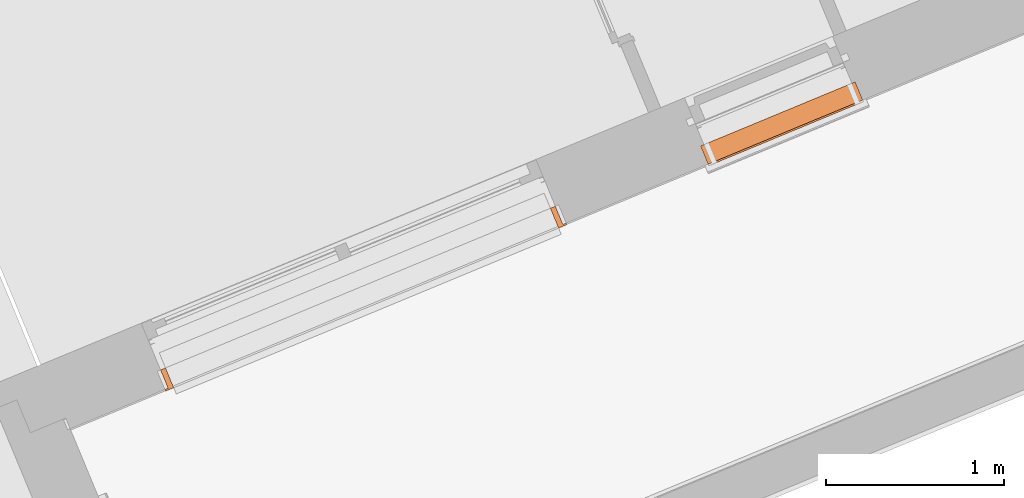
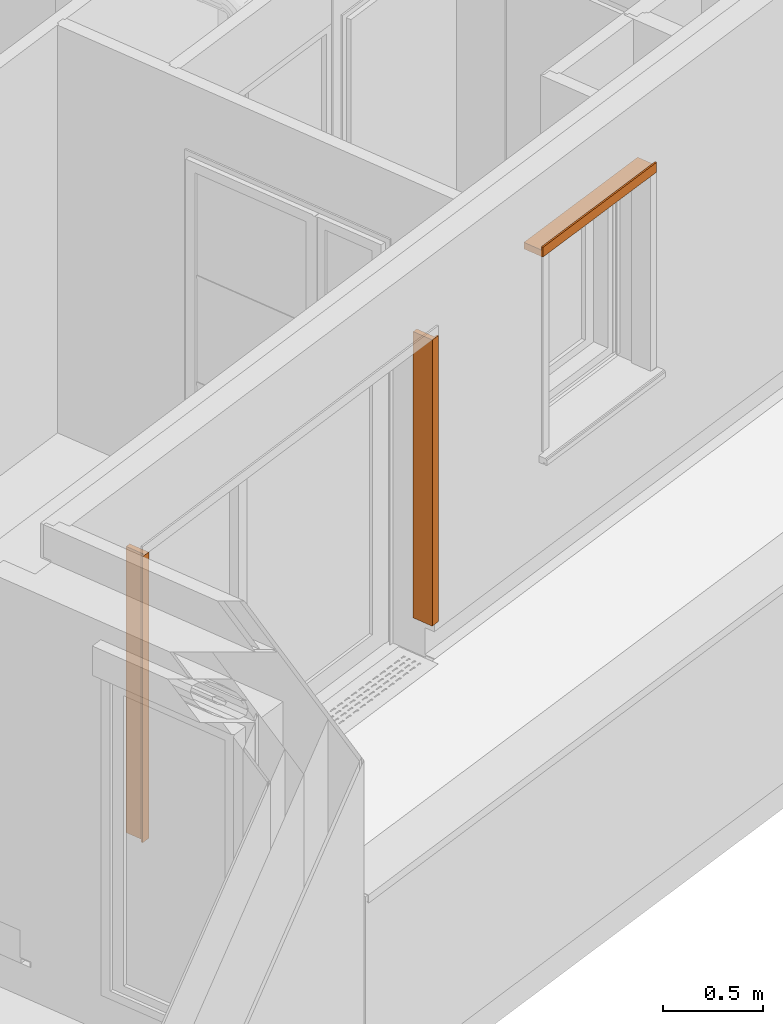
# One storey, part 85 of 91: 3 proxies.
"""IFC2X3 building model written with IfcOpenShell, lengths in metres."""

import ifcopenshell
import ifcopenshell.guid

model = None  # the IFC model being written
_history = None  # IfcOwnerHistory: only IFC2X3 demands one
_inside = {}  # id of a spatial element -> (the spatial element, [elements in it])
_under = {}  # id of a project, library or spatial element -> (it, [spatial elements below it])
_declared = {}  # id of a project -> (the project, [libraries it declares])
_typed = {}  # id of a type object -> (the type object, [elements of that type])
_made_of = {}  # id of a material, layer set ... -> (it, [elements and type objects made of it])


def new_model(schema):
    """Start an empty IFC model of exactly this schema.

    Asked for "IFC4X3", IfcOpenShell would pick the latest addendum, in which some entities
    have other attributes; the version numbers below select the first issue.
    IFC2X3 requires an IfcOwnerHistory on every rooted entity: one is made here for all.
    """
    global model, _history
    if schema == "IFC4X3":
        model = ifcopenshell.file(schema_version=(4, 3, 0, 0))
    else:
        model = ifcopenshell.file(schema=schema)
    _inside.clear()
    _under.clear()
    _declared.clear()
    _typed.clear()
    _made_of.clear()
    _history = None
    if model.schema == "IFC2X3":
        org = make("IfcOrganization", Name="unknown")
        user = make(
            "IfcPersonAndOrganization",
            ThePerson=make("IfcPerson", FamilyName="unknown"),
            TheOrganization=org,
        )
        app = make(
            "IfcApplication",
            ApplicationDeveloper=org,
            Version="unknown",
            ApplicationFullName="unknown",
            ApplicationIdentifier="unknown",
        )
        _history = make(
            "IfcOwnerHistory",
            OwningUser=user,
            OwningApplication=app,
            ChangeAction="ADDED",
            CreationDate=0,
        )
    return model


def make(cls, **values):
    """One entity of the class cls with the attributes given. An attribute that is None is left unset."""
    return model.create_entity(
        cls, **{name: value for name, value in values.items() if value is not None}
    )


def entity(cls, *values):
    """Any entity or typed value of the class cls, its attributes in the order of the schema. None: left unset."""
    e = model.create_entity(cls)
    for i, value in enumerate(values):
        if value is not None:
            e[i] = value
    return e


def rooted(cls, **values):
    """An entity with a GlobalId (a new one), such as an element, a storey or a relation."""
    return make(cls, GlobalId=ifcopenshell.guid.new(), OwnerHistory=_history, **values)


def si_unit(unit_type, name, prefix=None):
    """IfcSIUnit, for example si_unit("LENGTHUNIT", "METRE", prefix="MILLI")."""
    return make("IfcSIUnit", UnitType=unit_type, Prefix=prefix, Name=name)


def converted_unit(unit_type, name, factor, base, dimensions=None, offset=None):
    """IfcConversionBasedUnit, such as the inch: factor (a typed value) times the base unit."""
    return make(
        "IfcConversionBasedUnit"
        if offset is None
        else "IfcConversionBasedUnitWithOffset",
        ConversionOffset=offset,
        Dimensions=None
        if dimensions is None
        else entity("IfcDimensionalExponents", *dimensions),
        UnitType=unit_type,
        Name=name,
        ConversionFactor=make(
            "IfcMeasureWithUnit", ValueComponent=factor, UnitComponent=base
        ),
    )


def derived_unit(unit_type, elements):
    """IfcDerivedUnit: a product of units, each with its exponent."""
    return make(
        "IfcDerivedUnit",
        Elements=[
            make("IfcDerivedUnitElement", Unit=unit, Exponent=power)
            for unit, power in elements
        ],
        UnitType=unit_type,
    )


def money_unit(currency):
    """IfcMonetaryUnit."""
    return make("IfcMonetaryUnit", Currency=currency)


def assignment(units):
    """IfcUnitAssignment: the units of a project."""
    return None if units is None else make("IfcUnitAssignment", Units=units)


def point(xyz):
    """IfcCartesianPoint."""
    return None if xyz is None else make("IfcCartesianPoint", Coordinates=xyz)


def direction(xyz):
    """IfcDirection."""
    return None if xyz is None else make("IfcDirection", DirectionRatios=xyz)


def frame(location, z_axis=None, x_axis=None):
    """IfcAxis2Placement3D, a coordinate frame: its origin and axes. An axis left out is left unset."""
    return make(
        "IfcAxis2Placement3D",
        Location=point(location),
        Axis=direction(z_axis),
        RefDirection=direction(x_axis),
    )


def origin_with_axes():
    """The frame at (0, 0, 0) with the z axis (0, 0, 1) and the x axis (1, 0, 0) written out."""
    return frame((0.0, 0.0, 0.0), z_axis=(0.0, 0.0, 1.0), x_axis=(1.0, 0.0, 0.0))


def place(relative_to, where):
    """IfcLocalPlacement: puts the frame where relative to a parent placement (None: the world)."""
    return make(
        "IfcLocalPlacement", PlacementRelTo=relative_to, RelativePlacement=where
    )


def context(
    kind, dimensions, precision=None, world=None, true_north=None, identifier=None
):
    """IfcGeometricRepresentationContext, for example the 3D "Model" context."""
    return make(
        "IfcGeometricRepresentationContext",
        ContextIdentifier=identifier,
        ContextType=kind,
        CoordinateSpaceDimension=dimensions,
        Precision=precision,
        WorldCoordinateSystem=world,
        TrueNorth=true_north,
    )


def subcontext(parent, identifier, kind, view, scale=None):
    """IfcGeometricRepresentationSubContext, for example "Body" below "Model"."""
    return make(
        "IfcGeometricRepresentationSubContext",
        ContextIdentifier=identifier,
        ContextType=kind,
        ParentContext=parent,
        TargetScale=scale,
        TargetView=view,
    )


def project(units=None, contexts=None):
    """IfcProject with its units and contexts."""
    return rooted(
        "IfcProject",
        Name="project",
        RepresentationContexts=contexts,
        UnitsInContext=assignment(units),
    )


def spatial(cls, under=None, at=None, **own):
    """A site, building, storey or space (cls), placed at a placement, below another one or the project."""
    s = rooted(cls, ObjectPlacement=at, **own)
    if under is not None:
        _under.setdefault(under.id(), (under, []))[1].append(s)
    return s


def faces_of(points, faces, orient=None, outer=None):
    """IfcFace entities. A face is a list of loops; a loop is a list of indices into points, from 0.

    orient and outer hold one flag for each loop. By default every Orientation is true, the
    first loop of a face is its IfcFaceOuterBound and the others are IfcFaceBound.
    """
    made = []
    for i, loops in enumerate(faces):
        bounds = []
        for j, loop in enumerate(loops):
            is_outer = j == 0 if outer is None else outer[i][j]
            bounds.append(
                make(
                    "IfcFaceOuterBound" if is_outer else "IfcFaceBound",
                    Bound=make("IfcPolyLoop", Polygon=[points[k] for k in loop]),
                    Orientation=True if orient is None else orient[i][j],
                )
            )
        made.append(make("IfcFace", Bounds=bounds))
    return made


def faceted_brep(points, faces, orient=None, outer=None, voids=None):
    """IfcFacetedBrep: a solid bounded by flat faces; with voids (closed shells), ...WithVoids."""
    shared = [point(p) for p in points]
    hull = make("IfcClosedShell", CfsFaces=faces_of(shared, faces, orient, outer))
    if voids is None:
        return make("IfcFacetedBrep", Outer=hull)
    return make(
        "IfcFacetedBrepWithVoids",
        Outer=hull,
        Voids=[
            make(cls, CfsFaces=faces_of(shared, fs, o, b)) for cls, fs, o, b in voids
        ],
    )


def shape(context_of_items, identifier, shape_type, items):
    """IfcShapeRepresentation: the items that make up one representation, for example the "Body"."""
    return make(
        "IfcShapeRepresentation",
        ContextOfItems=context_of_items,
        RepresentationIdentifier=identifier,
        RepresentationType=shape_type,
        Items=items,
    )


def source(mapping_origin, context_of_items, identifier, shape_type, items):
    """IfcRepresentationMap: a shape defined once, which mapped items show again and again."""
    return make(
        "IfcRepresentationMap",
        MappingOrigin=mapping_origin,
        MappedRepresentation=shape(context_of_items, identifier, shape_type, items),
    )


def transform(
    local_origin,
    x_axis=None,
    y_axis=None,
    z_axis=None,
    scale=None,
    scale2=None,
    scale3=None,
    uniform=True,
):
    """IfcCartesianTransformationOperator3D, or its non-uniform kind. x_axis, y_axis, z_axis: its Axis1, 2, 3."""
    if uniform:
        return make(
            "IfcCartesianTransformationOperator3D",
            Axis1=direction(x_axis),
            Axis2=direction(y_axis),
            LocalOrigin=point(local_origin),
            Scale=scale,
            Axis3=direction(z_axis),
        )
    return make(
        "IfcCartesianTransformationOperator3DnonUniform",
        Axis1=direction(x_axis),
        Axis2=direction(y_axis),
        LocalOrigin=point(local_origin),
        Scale=scale,
        Axis3=direction(z_axis),
        Scale2=scale2,
        Scale3=scale3,
    )


def mapped(mapping_source, mapping_target):
    """IfcMappedItem: shows the shape of a source again, moved by a transform."""
    return make(
        "IfcMappedItem", MappingSource=mapping_source, MappingTarget=mapping_target
    )


def material(Name=None, Category=None):
    """IfcMaterial."""
    return make("IfcMaterial", Name=Name, Category=Category)


def made_of(thing, what):
    """Note that an element or type object is made of a material, layer set ...; save() writes the relation."""
    if what is not None:
        _made_of.setdefault(what.id(), (what, []))[1].append(thing)
    return thing


def type_object(cls, material=None, **own):
    """A type object (cls), such as IfcWallType, which elements share."""
    return made_of(rooted(cls, **own), material)


def element(
    cls,
    number,
    at=None,
    inside=None,
    cuts=None,
    type_object=None,
    material=None,
    context=None,
    identifier="Body",
    shape_type=None,
    held_by="IfcProductDefinitionShape",
    body=None,
    shapes=None,
    **own,
):
    """One element of the class cls, such as IfcWall. Its Tag is "e" and its number.

    at: its placement. inside: the storey or other place that contains it. cuts: it is an
    opening in that element (IfcRelVoidsElement). A single representation is given by context,
    identifier, shape_type and body (its items); several are given by shapes. held_by: the class
    of the entity that holds the representations. save() writes the other relations.
    """
    e = rooted(cls, Tag="e%d" % number, ObjectPlacement=at, **own)
    if body is not None:
        shapes = [shape(context, identifier, shape_type, body)]
    if shapes is not None:
        e.Representation = make(held_by, Representations=shapes)
    if inside is not None:
        _inside.setdefault(inside.id(), (inside, []))[1].append(e)
    if cuts is not None:
        rooted(
            "IfcRelVoidsElement", RelatingBuildingElement=cuts, RelatedOpeningElement=e
        )
    if type_object is not None:
        _typed.setdefault(type_object.id(), (type_object, []))[1].append(e)
    return made_of(e, material)


def aggregate(whole, parts):
    """IfcRelAggregates: a whole, such as a stair, and the parts it consists of."""
    return rooted("IfcRelAggregates", RelatingObject=whole, RelatedObjects=parts)


def save(model, path):
    """Write the relations noted so far, then the file.

    IfcRelAggregates (storeys below a building ...), IfcRelContainedInSpatialStructure (elements
    in a storey), IfcRelDefinesByType, IfcRelAssociatesMaterial and IfcRelDeclares: one each for
    every whole, place, type object, material and project.
    """
    for whole, parts in _under.values():
        aggregate(whole, parts)
    for where, things in _inside.values():
        rooted(
            "IfcRelContainedInSpatialStructure",
            RelatedElements=things,
            RelatingStructure=where,
        )
    for kind, things in _typed.values():
        rooted("IfcRelDefinesByType", RelatedObjects=things, RelatingType=kind)
    for what, things in _made_of.values():
        rooted("IfcRelAssociatesMaterial", RelatedObjects=things, RelatingMaterial=what)
    for by, libraries in _declared.values():
        rooted("IfcRelDeclares", RelatingContext=by, RelatedDefinitions=libraries)
    model.write(path)


model = new_model("IFC2X3")

# Units and contexts
model_context = context("Model", 3, precision=1e-05, world=origin_with_axes(), true_north=direction((0.0, 1.0)))
body_context = subcontext(model_context, "Body", "Model", "MODEL_VIEW")
ifc_project = project(units=[si_unit("LENGTHUNIT", "METRE"), si_unit("AREAUNIT", "SQUARE_METRE"), si_unit("VOLUMEUNIT", "CUBIC_METRE"), converted_unit("PLANEANGLEUNIT", "DEGREE", entity("IfcPlaneAngleMeasure", 0.0174532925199), si_unit("PLANEANGLEUNIT", "RADIAN"), dimensions=[0, 0, 0, 0, 0, 0, 0]), si_unit("SOLIDANGLEUNIT", "STERADIAN"), money_unit("EUR"), converted_unit("TIMEUNIT", "Year", entity("IfcTimeMeasure", 31556926.0), si_unit("TIMEUNIT", "SECOND"), dimensions=[0, 0, 1, 0, 0, 0, 0]), si_unit("MASSUNIT", "GRAM", prefix="KILO"), si_unit("THERMODYNAMICTEMPERATUREUNIT", "DEGREE_CELSIUS"), si_unit("LUMINOUSINTENSITYUNIT", "LUMEN"), si_unit("ENERGYUNIT", "JOULE", prefix="MEGA"), derived_unit("THERMALCONDUCTANCEUNIT", [(si_unit("POWERUNIT", "WATT"), 1), (si_unit("LENGTHUNIT", "METRE"), -1), (si_unit("THERMODYNAMICTEMPERATUREUNIT", "KELVIN"), -1)]), derived_unit("SPECIFICHEATCAPACITYUNIT", [(si_unit("ENERGYUNIT", "JOULE"), 1), (si_unit("MASSUNIT", "GRAM", prefix="KILO"), -1), (si_unit("THERMODYNAMICTEMPERATUREUNIT", "KELVIN"), -1)]), derived_unit("MASSDENSITYUNIT", [(si_unit("MASSUNIT", "GRAM", prefix="KILO"), 1), (si_unit("VOLUMEUNIT", "CUBIC_METRE"), -1)])], contexts=[model_context])

# Site, building, storey
site_placement = place(None, origin_with_axes())
site = spatial("IfcSite", under=ifc_project, at=site_placement, Name="Site", CompositionType="ELEMENT")
building_placement = place(site_placement, origin_with_axes())
building = spatial("IfcBuilding", under=site, at=building_placement, Name="Bâtiment", CompositionType="ELEMENT")
storey_placement = place(building_placement, frame((0.0, 0.0, 5.44), z_axis=(0.0, 0.0, 1.0), x_axis=(1.0, 0.0, 0.0)))
storey = spatial("IfcBuildingStorey", under=building, at=storey_placement, Name="R+2", CompositionType="ELEMENT", Elevation=5.44)

# Proxies
ifc_material = material(Name="Volume - Etude")
building_element_proxy_type = type_object("IfcBuildingElementProxyType", Name="Volume - Etude", PredefinedType="NOTDEFINED")
shared_shape_1 = source(origin_with_axes(), body_context, "Body", "Brep", [
    faceted_brep([(-0.0774534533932, -0.0178752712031, -0.780796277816), (-0.0774534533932, -0.0178752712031, 0.974203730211), (-0.07070717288, -0.047106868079, 0.974203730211), (-0.07070717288, -0.047106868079, -0.780796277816), (-0.185133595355, -0.0427264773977, -0.780796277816), (-0.185133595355, -0.0427264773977, 0.974203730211), (-0.189631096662, -0.023238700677, 0.974203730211), (-0.199337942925, -0.0254789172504, 0.974203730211), (-0.188094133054, -0.0741982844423, 0.974203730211), (-0.188094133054, -0.0741982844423, -0.780796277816), (-0.199337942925, -0.0254789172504, -0.780796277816), (-0.189631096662, -0.023238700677, -0.780796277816)], [[[0, 1, 2, 3]], [[0, 4, 5, 1]], [[1, 5, 6, 7, 8, 2]], [[2, 8, 9, 3]], [[3, 9, 10, 11, 4, 0]], [[5, 4, 11, 6]], [[11, 10, 7, 6]], [[8, 7, 10, 9]]]),
])
proxy_1_placement = place(storey_placement, frame((-27.5700680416, -24.9670604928, 1.23579627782), z_axis=(0.0, 0.0, 1.0), x_axis=(-0.165581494, 0.986196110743, 0.0)))
element("IfcBuildingElementProxy", 1, at=proxy_1_placement, inside=storey, type_object=building_element_proxy_type, material=ifc_material, Name="Forme-009", context=body_context, shape_type="MappedRepresentation", body=[
    mapped(shared_shape_1, transform((0.0, 0.0, 0.0))),
])
shared_shape_2 = source(origin_with_axes(), body_context, "Body", "Brep", [
    faceted_brep([(0.0774534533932, -0.0178752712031, -0.780796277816), (0.07070717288, -0.047106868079, -0.780796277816), (0.07070717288, -0.047106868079, 0.974203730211), (0.0774534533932, -0.0178752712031, 0.974203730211), (0.185133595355, -0.0427264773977, -0.780796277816), (0.189631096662, -0.023238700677, -0.780796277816), (0.199337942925, -0.0254789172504, -0.780796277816), (0.188094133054, -0.0741982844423, -0.780796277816), (0.188094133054, -0.0741982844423, 0.974203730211), (0.199337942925, -0.0254789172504, 0.974203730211), (0.189631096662, -0.023238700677, 0.974203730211), (0.185133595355, -0.0427264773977, 0.974203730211)], [[[0, 1, 2, 3]], [[1, 0, 4, 5, 6, 7]], [[2, 1, 7, 8]], [[3, 2, 8, 9, 10, 11]], [[0, 3, 11, 4]], [[11, 10, 5, 4]], [[5, 10, 9, 6]], [[8, 7, 6, 9]]]),
])
proxy_2_placement = place(storey_placement, frame((-25.3531840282, -24.04759039, 1.23579627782), z_axis=(0.0, 0.0, 1.0), x_axis=(0.581018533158, -0.813890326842, 0.0)))
element("IfcBuildingElementProxy", 2, at=proxy_2_placement, inside=storey, type_object=building_element_proxy_type, material=ifc_material, Name="Forme-009", context=body_context, shape_type="MappedRepresentation", body=[
    mapped(shared_shape_2, transform((0.0, 0.0, 0.0))),
])
shared_shape_3 = source(origin_with_axes(), body_context, "Body", "Brep", [
    faceted_brep([(-0.344599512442, 0.957419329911, 0.0200000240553), (-0.344599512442, 0.957419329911, -0.0399999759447), (-0.227212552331, 0.984510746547, -0.0399999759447), (-0.227212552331, 0.984510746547, 0.0), (-0.33489269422, 0.959659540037, 0.0), (-0.334892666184, 0.959659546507, 0.0200000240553), (-0.555983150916, 1.87334347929, 0.0200000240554), (-0.555983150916, 1.87334347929, -0.0399999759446), (-0.438596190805, 1.90043489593, -0.0399999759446), (-0.438596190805, 1.90043489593, 0.0), (-0.546276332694, 1.87558368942, 0.0), (-0.546276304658, 1.87558369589, 0.0200000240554)], [[[0, 1, 2, 3, 4, 5]], [[0, 6, 7, 1]], [[1, 7, 8, 2]], [[2, 8, 9, 3]], [[3, 9, 10, 4]], [[4, 10, 11, 5]], [[5, 11, 6, 0]], [[10, 9, 8, 7, 6, 11]]]),
])
proxy_3_placement = place(storey_placement, frame((-22.7054294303, -23.0354685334, 2.25000000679), z_axis=(0.0, 0.0, 1.0), x_axis=(-0.16558149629, 0.986196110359, 0.0)))
element("IfcBuildingElementProxy", 3, at=proxy_3_placement, inside=storey, type_object=building_element_proxy_type, material=ifc_material, Name="Forme-010", context=body_context, shape_type="MappedRepresentation", body=[
    mapped(shared_shape_3, transform((0.0, 0.0, 0.0))),
])

save(model, "model.ifc")
